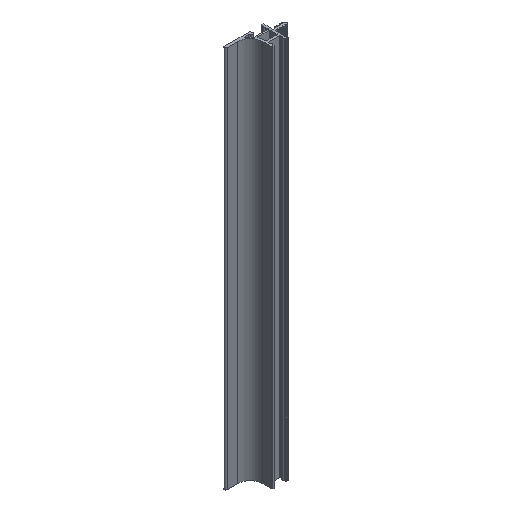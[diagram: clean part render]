
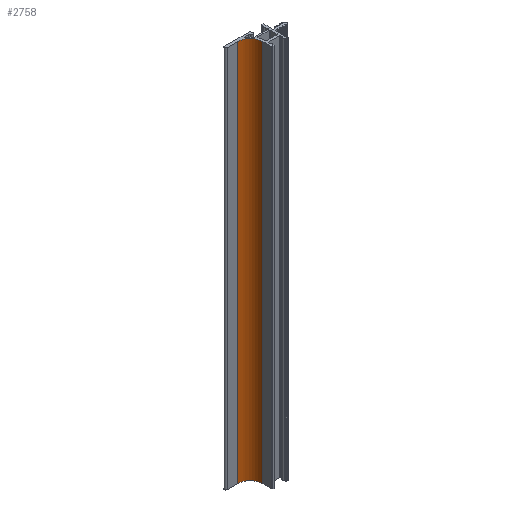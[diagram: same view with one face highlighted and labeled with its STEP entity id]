
A CAD part, isometric view. The second image highlights one B-rep face of the part: STEP entity #2758.
In plain terms, the highlighted cylindrical face has radius 10 mm (diameter 20 mm), a partial arc.
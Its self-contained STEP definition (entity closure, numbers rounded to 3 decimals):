
#25 = CARTESIAN_POINT ( 'NONE',  ( -22.4, -3.8, 0. ) ) ;
#141 = CIRCLE ( 'NONE', #2466, 10. ) ;
#343 = DIRECTION ( 'NONE',  ( 0., 0., -1. ) ) ;
#393 = FACE_OUTER_BOUND ( 'NONE', #2789, .T. ) ;
#398 = ORIENTED_EDGE ( 'NONE', *, *, #2508, .T. ) ;
#441 = CARTESIAN_POINT ( 'NONE',  ( -12.4, -3.8, 0. ) ) ;
#632 = DIRECTION ( 'NONE',  ( 0., 0., 1. ) ) ;
#661 = DIRECTION ( 'NONE',  ( 0., 0., 1. ) ) ;
#843 = EDGE_CURVE ( 'NONE', #1197, #3313, #952, .T. ) ;
#905 = ORIENTED_EDGE ( 'NONE', *, *, #3099, .F. ) ;
#952 = LINE ( 'NONE', #2035, #2487 ) ;
#1044 = DIRECTION ( 'NONE',  ( 1., 0., 0. ) ) ;
#1096 = CYLINDRICAL_SURFACE ( 'NONE', #2417, 10. ) ;
#1197 = VERTEX_POINT ( 'NONE', #2018 ) ;
#1225 = ORIENTED_EDGE ( 'NONE', *, *, #843, .T. ) ;
#1381 = ORIENTED_EDGE ( 'NONE', *, *, #3232, .F. ) ;
#1382 = VERTEX_POINT ( 'NONE', #2385 ) ;
#1471 = DIRECTION ( 'NONE',  ( 1., 0., 0. ) ) ;
#1486 = DIRECTION ( 'NONE',  ( 0., 0., -1. ) ) ;
#1498 = AXIS2_PLACEMENT_3D ( 'NONE', #25, #343, #1044 ) ;
#1885 = VECTOR ( 'NONE', #661, 1000. ) ;
#1908 = CARTESIAN_POINT ( 'NONE',  ( -22.4, 6.2, -300. ) ) ;
#1962 = DIRECTION ( 'NONE',  ( 1., 0., 0. ) ) ;
#2018 = CARTESIAN_POINT ( 'NONE',  ( -12.4, -3.8, -300. ) ) ;
#2035 = CARTESIAN_POINT ( 'NONE',  ( -12.4, -3.8, -300. ) ) ;
#2057 = DIRECTION ( 'NONE',  ( 0., 0., 1. ) ) ;
#2138 = CARTESIAN_POINT ( 'NONE',  ( -22.4, -3.8, -300. ) ) ;
#2385 = CARTESIAN_POINT ( 'NONE',  ( -22.4, 6.2, 0. ) ) ;
#2389 = CARTESIAN_POINT ( 'NONE',  ( -22.4, 6.2, -300. ) ) ;
#2410 = LINE ( 'NONE', #1908, #1885 ) ;
#2417 = AXIS2_PLACEMENT_3D ( 'NONE', #2138, #632, #1962 ) ;
#2466 = AXIS2_PLACEMENT_3D ( 'NONE', #2738, #1486, #1471 ) ;
#2487 = VECTOR ( 'NONE', #2057, 1000. ) ;
#2508 = EDGE_CURVE ( 'NONE', #2735, #1197, #141, .T. ) ;
#2735 = VERTEX_POINT ( 'NONE', #2389 ) ;
#2738 = CARTESIAN_POINT ( 'NONE',  ( -22.4, -3.8, -300. ) ) ;
#2758 = ADVANCED_FACE ( 'NONE', ( #393 ), #1096, .F. ) ;
#2789 = EDGE_LOOP ( 'NONE', ( #905, #1381, #398, #1225 ) ) ;
#2860 = CIRCLE ( 'NONE', #1498, 10. ) ;
#3099 = EDGE_CURVE ( 'NONE', #1382, #3313, #2860, .T. ) ;
#3232 = EDGE_CURVE ( 'NONE', #2735, #1382, #2410, .T. ) ;
#3313 = VERTEX_POINT ( 'NONE', #441 ) ;
